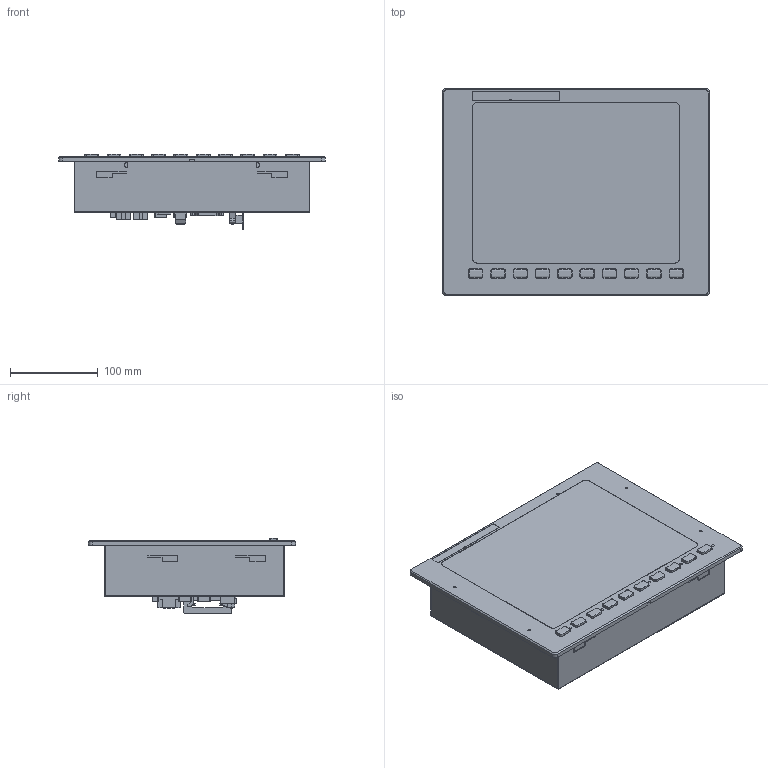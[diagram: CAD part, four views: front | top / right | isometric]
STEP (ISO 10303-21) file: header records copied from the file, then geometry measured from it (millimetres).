
FILE_DESCRIPTION (( 'STEP AP214' ), '1' );
FILE_NAME ('揖諷.STEP', '2023-05-09T09:56:13', ( '' ), ( '' ), 'SwSTEP 2.0', 'SolidWorks 2018', '' );
FILE_SCHEMA (( 'AUTOMOTIVE_DESIGN' ));
Length unit declared in the file: millimetre
Products named in the file (1): 揖諷
Bounding box: 304 x 236 x 86.37 mm (x, y, z)
Volume: 3426659.2 mm3; surface area: 417340.9 mm2
Topology: 1 solids, 40 shells, 1689 faces, 4236 edges, 2768 vertices
Faces by surface type: plane 1156, cylinder 382, bspline 79, cone 52, torus 20
Full cylindrical faces by diameter (mm): 0.686 x52, 0.983 x3, 1.207 x8, 2.5 x6, 2.6 x3, 3 x15, 3.497 x1, 3.5 x12, 4.5 x1, 5.4 x4
Entity records: 51651 total; most frequent: CARTESIAN_POINT 11584, ORIENTED_EDGE 8142, DIRECTION 7957, EDGE_CURVE 4071, LINE 3071, VECTOR 3071, VERTEX_POINT 2716, AXIS2_PLACEMENT_3D 2443
